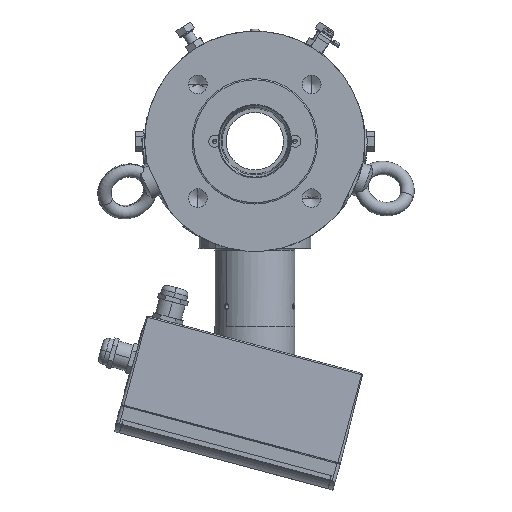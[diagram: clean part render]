
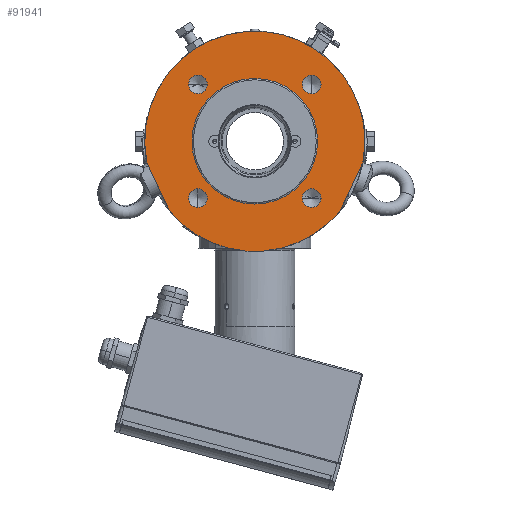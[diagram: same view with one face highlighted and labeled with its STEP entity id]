
A CAD part, left-side view. The second image highlights one B-rep face of the part: STEP entity #91941.
In plain terms, the highlighted planar face has unit normal (-1, 0, 0).
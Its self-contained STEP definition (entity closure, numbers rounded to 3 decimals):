
#19420=CARTESIAN_POINT('',(-103.4,0.,0.));
#19421=DIRECTION('',(-1.,0.,0.));
#19422=DIRECTION('',(0.,-0.982,-0.188));
#19423=AXIS2_PLACEMENT_3D('',#19420,#19421,#19422);
#19902=DIRECTION('',(0.,0.423,-0.906));
#19903=VECTOR('',#19902,40.311);
#19904=CARTESIAN_POINT('',(-103.4,-81.023,-15.542));
#19905=LINE('4520',#19904,#19903);
#19909=CARTESIAN_POINT('',(-103.4,0.,0.));
#19910=DIRECTION('',(-1.,0.,0.));
#19911=DIRECTION('',(0.,0.776,-0.631));
#19912=AXIS2_PLACEMENT_3D('',#19909,#19910,#19911);
#19917=DIRECTION('',(0.,0.423,0.906));
#19918=VECTOR('',#19917,40.311);
#19919=CARTESIAN_POINT('',(-103.4,63.986,-52.077));
#19920=LINE('4525',#19919,#19918);
#19924=CARTESIAN_POINT('',(-103.4,42.639,42.639));
#19925=DIRECTION('',(-1.,0.,0.));
#19926=DIRECTION('',(0.,1.,0.));
#19927=AXIS2_PLACEMENT_3D('',#19924,#19925,#19926);
#19932=CARTESIAN_POINT('',(-103.4,42.639,42.639));
#19933=DIRECTION('',(-1.,0.,0.));
#19934=DIRECTION('',(0.,-1.,0.));
#19935=AXIS2_PLACEMENT_3D('',#19932,#19933,#19934);
#19940=CARTESIAN_POINT('',(-103.4,-42.639,42.639));
#19941=DIRECTION('',(-1.,0.,0.));
#19942=DIRECTION('',(0.,0.,1.));
#19943=AXIS2_PLACEMENT_3D('',#19940,#19941,#19942);
#19948=CARTESIAN_POINT('',(-103.4,-42.639,42.639));
#19949=DIRECTION('',(-1.,0.,0.));
#19950=DIRECTION('',(0.,0.,-1.));
#19951=AXIS2_PLACEMENT_3D('',#19948,#19949,#19950);
#19956=CARTESIAN_POINT('',(-103.4,-42.639,-42.639));
#19957=DIRECTION('',(-1.,0.,0.));
#19958=DIRECTION('',(0.,-1.,0.));
#19959=AXIS2_PLACEMENT_3D('',#19956,#19957,#19958);
#19964=CARTESIAN_POINT('',(-103.4,-42.639,-42.639));
#19965=DIRECTION('',(-1.,0.,0.));
#19966=DIRECTION('',(0.,1.,0.));
#19967=AXIS2_PLACEMENT_3D('',#19964,#19965,#19966);
#19972=CARTESIAN_POINT('',(-103.4,42.639,-42.639));
#19973=DIRECTION('',(-1.,0.,0.));
#19974=DIRECTION('',(0.,0.,-1.));
#19975=AXIS2_PLACEMENT_3D('',#19972,#19973,#19974);
#19980=CARTESIAN_POINT('',(-103.4,42.639,-42.639));
#19981=DIRECTION('',(-1.,0.,0.));
#19982=DIRECTION('',(0.,0.,1.));
#19983=AXIS2_PLACEMENT_3D('',#19980,#19981,#19982);
#19988=CARTESIAN_POINT('',(-103.4,0.,0.));
#19989=DIRECTION('',(1.,0.,0.));
#19990=DIRECTION('',(0.,1.,0.));
#19991=AXIS2_PLACEMENT_3D('',#19988,#19989,#19990);
#19996=CARTESIAN_POINT('',(-103.4,0.,0.));
#19997=DIRECTION('',(1.,0.,0.));
#19998=DIRECTION('',(0.,-1.,0.));
#19999=AXIS2_PLACEMENT_3D('',#19996,#19997,#19998);
#68677=CARTESIAN_POINT('',(-103.4,49.639,42.639));
#68678=VERTEX_POINT('',#68677);
#68679=CARTESIAN_POINT('',(-103.4,35.639,42.639));
#68680=VERTEX_POINT('',#68679);
#68687=CARTESIAN_POINT('',(-103.4,-42.639,49.639));
#68688=VERTEX_POINT('',#68687);
#68689=CARTESIAN_POINT('',(-103.4,-42.639,35.639));
#68690=VERTEX_POINT('',#68689);
#68697=CARTESIAN_POINT('',(-103.4,-49.639,-42.639));
#68698=VERTEX_POINT('',#68697);
#68699=CARTESIAN_POINT('',(-103.4,-35.639,-42.639));
#68700=VERTEX_POINT('',#68699);
#68707=CARTESIAN_POINT('',(-103.4,42.639,-49.639));
#68708=VERTEX_POINT('',#68707);
#68709=CARTESIAN_POINT('',(-103.4,42.639,-35.639));
#68710=VERTEX_POINT('',#68709);
#68923=CARTESIAN_POINT('',(-103.4,47.05,0.));
#68924=CARTESIAN_POINT('',(-103.4,-47.05,0.));
#68925=VERTEX_POINT('',#68923);
#68926=VERTEX_POINT('',#68924);
#68957=CARTESIAN_POINT('',(-103.4,-63.986,-52.077));
#68958=VERTEX_POINT('',#68957);
#68959=CARTESIAN_POINT('',(-103.4,-81.023,-15.542));
#68960=VERTEX_POINT('',#68959);
#68963=CARTESIAN_POINT('',(-103.4,63.986,-52.077));
#68964=VERTEX_POINT('',#68963);
#68967=CARTESIAN_POINT('',(-103.4,81.023,-15.542));
#68968=VERTEX_POINT('',#68967);
#91899=CARTESIAN_POINT('',(-103.4,0.,0.));
#91900=DIRECTION('',(1.,0.,0.));
#91901=DIRECTION('',(0.,-1.,0.));
#91902=AXIS2_PLACEMENT_3D('',#91899,#91900,#91901);
#91903=PLANE('463',#91902);
#91904=ORIENTED_EDGE('4520',*,*,#91668,.T.);
#91906=ORIENTED_EDGE('4522',*,*,#91905,.F.);
#91907=ORIENTED_EDGE('4525',*,*,#91864,.T.);
#91908=ORIENTED_EDGE('4527',*,*,#91763,.F.);
#91909=EDGE_LOOP('463',(#91904,#91906,#91907,#91908));
#91910=FACE_OUTER_BOUND('463',#91909,.F.);
#91912=ORIENTED_EDGE('4327',*,*,#91911,.T.);
#91914=ORIENTED_EDGE('4328',*,*,#91913,.T.);
#91915=EDGE_LOOP('463',(#91912,#91914));
#91916=FACE_BOUND('463',#91915,.F.);
#91918=ORIENTED_EDGE('4329',*,*,#91917,.T.);
#91920=ORIENTED_EDGE('4330',*,*,#91919,.T.);
#91921=EDGE_LOOP('463',(#91918,#91920));
#91922=FACE_BOUND('463',#91921,.F.);
#91924=ORIENTED_EDGE('4331',*,*,#91923,.T.);
#91926=ORIENTED_EDGE('4332',*,*,#91925,.T.);
#91927=EDGE_LOOP('463',(#91924,#91926));
#91928=FACE_BOUND('463',#91927,.F.);
#91930=ORIENTED_EDGE('4333',*,*,#91929,.T.);
#91932=ORIENTED_EDGE('4334',*,*,#91931,.T.);
#91933=EDGE_LOOP('463',(#91930,#91932));
#91934=FACE_BOUND('463',#91933,.F.);
#91936=ORIENTED_EDGE('4474',*,*,#91935,.F.);
#91938=ORIENTED_EDGE('4476',*,*,#91937,.F.);
#91939=EDGE_LOOP('463',(#91936,#91938));
#91940=FACE_BOUND('463',#91939,.F.);
#19424=CIRCLE('4527',#19423,82.5);
#19913=CIRCLE('4522',#19912,82.5);
#19928=CIRCLE('4327',#19927,7.);
#19936=CIRCLE('4328',#19935,7.);
#19944=CIRCLE('4329',#19943,7.);
#19952=CIRCLE('4330',#19951,7.);
#19960=CIRCLE('4331',#19959,7.);
#19968=CIRCLE('4332',#19967,7.);
#19976=CIRCLE('4333',#19975,7.);
#19984=CIRCLE('4334',#19983,7.);
#19992=CIRCLE('4474',#19991,47.05);
#20000=CIRCLE('4476',#19999,47.05);
#91668=EDGE_CURVE('4520',#68960,#68958,#19905,.T.);
#91763=EDGE_CURVE('4527',#68960,#68968,#19424,.T.);
#91864=EDGE_CURVE('4525',#68964,#68968,#19920,.T.);
#91905=EDGE_CURVE('4522',#68964,#68958,#19913,.T.);
#91911=EDGE_CURVE('4327',#68678,#68680,#19928,.T.);
#91913=EDGE_CURVE('4328',#68680,#68678,#19936,.T.);
#91917=EDGE_CURVE('4329',#68688,#68690,#19944,.T.);
#91919=EDGE_CURVE('4330',#68690,#68688,#19952,.T.);
#91923=EDGE_CURVE('4331',#68698,#68700,#19960,.T.);
#91925=EDGE_CURVE('4332',#68700,#68698,#19968,.T.);
#91929=EDGE_CURVE('4333',#68708,#68710,#19976,.T.);
#91931=EDGE_CURVE('4334',#68710,#68708,#19984,.T.);
#91935=EDGE_CURVE('4474',#68925,#68926,#19992,.T.);
#91937=EDGE_CURVE('4476',#68926,#68925,#20000,.T.);
#91941=ADVANCED_FACE('463',(#91910,#91916,#91922,#91928,#91934,#91940),#91903,
.F.);
